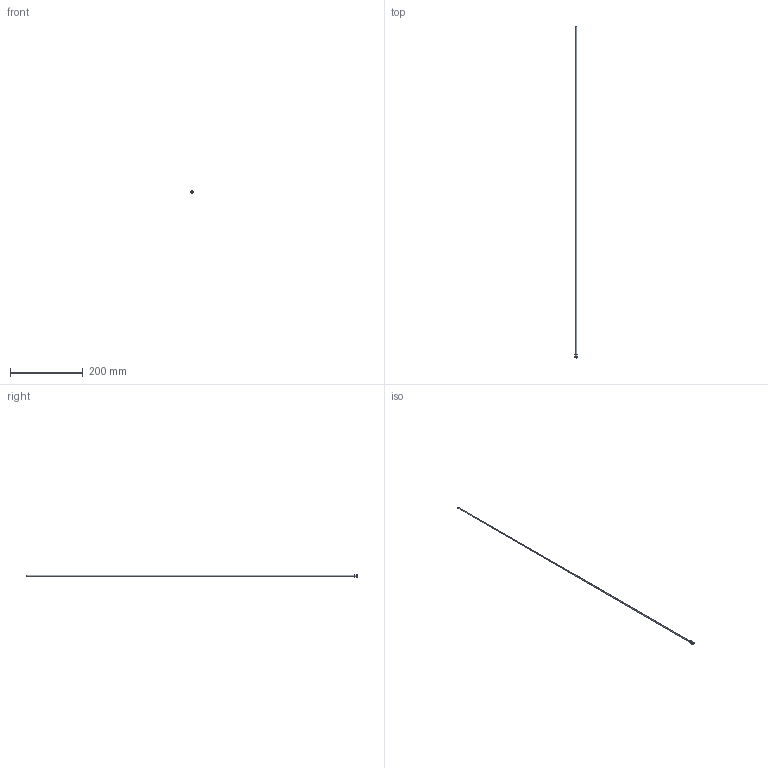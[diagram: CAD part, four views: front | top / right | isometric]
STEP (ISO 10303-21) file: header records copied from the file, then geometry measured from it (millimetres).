
FILE_DESCRIPTION(/* description */ (''),/* implementation_level */ '2;1');
FILE_NAME(/* name */ 'C:/Users/drich/Desktop/JR125T-36 v1.step',/* time_stamp */ '2019-12-30T13:02:40-06:00',/* author */ (''),/* organization */ (''),/* preprocessor_version */ 'ST-DEVELOPER v18',/* originating_system */ 'Autodesk Translation Framework v8.12.0.6',/* authorisation */ '');
FILE_SCHEMA (('AUTOMOTIVE_DESIGN { 1 0 10303 214 3 1 1 }'));
Length unit declared in the file: inch
Products named in the file (1): JR125T-36
Bounding box: 7.8 x 914.4 x 7.8 mm (x, y, z)
Volume: 2007.2 mm3; surface area: 17142.6 mm2
Topology: 1 solids, 1 shells, 19 faces, 47 edges, 33 vertices
Faces by surface type: plane 11, cylinder 4, torus 3, cone 1
Full cylindrical faces by diameter (mm): 2.743 x1, 3.15 x1, 6.243 x1, 7.798 x1
Entity records: 624 total; most frequent: DIRECTION 111, CARTESIAN_POINT 100, ORIENTED_EDGE 94, EDGE_CURVE 47, AXIS2_PLACEMENT_3D 44, VERTEX_POINT 33, EDGE_LOOP 24, CIRCLE 24
